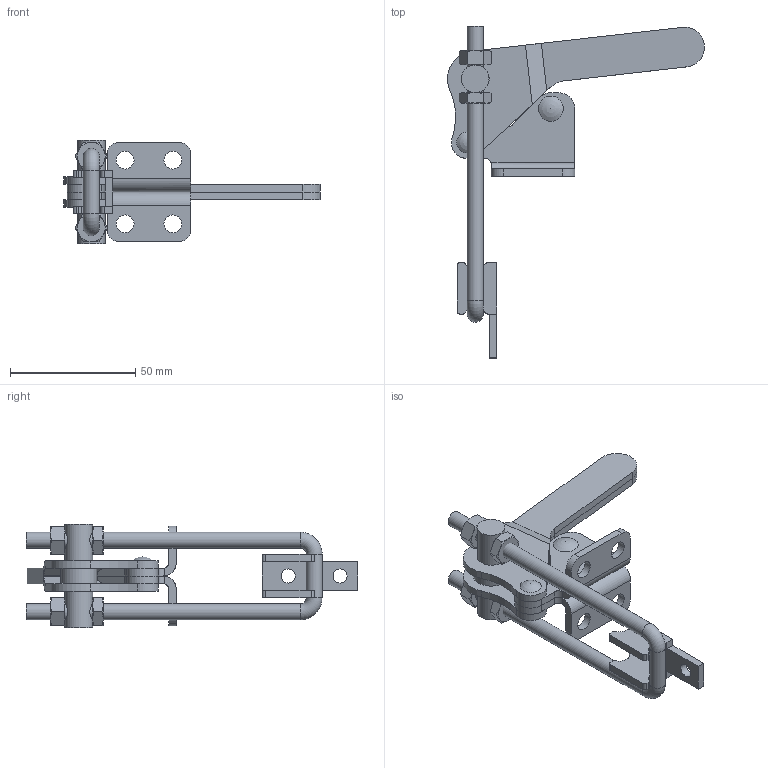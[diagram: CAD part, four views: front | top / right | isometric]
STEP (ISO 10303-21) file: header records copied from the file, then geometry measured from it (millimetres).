
FILE_DESCRIPTION((' '),'2;1');
FILE_NAME('C:\Users\Nick\Desktop\PCU-Sereis\PCU-1010\3D\PCU-1010.stp','2015-07-24T11:44:22',(' '),(' '),' ','ACIS',' ');
FILE_SCHEMA(('CONFIG_CONTROL_DESIGN'));
Length unit declared in the file: inch
Products named in the file (27): C:\Users\Nick\Desktop\PCU-Sereis\PCU-1010\3D\PCU-1010.stp; Body1; Body2; Body3; Body4; Body5; Body6; Body7; Body8; Body9; Body10; Body11; Body12; Body13; Body14; Body15; Body16; Body17; Body18; Body19; Body20; Body21; Body22; Body23; Body24; Body25; Body26
Assembly tree (26 placements, depth 2):
  C:\Users\Nick\Desktop\PCU-Sereis\PCU-1010\3D\PCU-1010.stp
    Body1
    Body2
    Body3
    Body4
    Body5
    Body6
    Body7
    Body8
    Body9
    Body10
    Body11
    Body12
    Body13
    Body14
    Body15
    Body16
    Body17
    Body18
    Body19
    Body20
    Body21
    Body22
    Body23
    Body24
    Body25
    Body26
Bounding box: 102.47 x 132.33 x 41.27 mm (x, y, z)
Volume: 39118.3 mm3; surface area: 31166.9 mm2
Topology: 26 solids, 26 shells, 261 faces, 579 edges, 368 vertices
Faces by surface type: plane 132, cylinder 73, cone 52, torus 2, sphere 2
Full cylindrical faces by diameter (mm): 4.657 x4, 4.724 x2, 4.826 x4, 5.537 x2, 5.588 x2, 6.35 x5, 6.756 x2, 7.137 x4, 11.049 x1, 11.1 x2, 14.288 x1
Entity records: 10996 total; most frequent: CARTESIAN_POINT 1556, DIRECTION 1262, ORIENTED_EDGE 1076, EDGE_CURVE 538, AXIS2_PLACEMENT_3D 514, VERTEX_POINT 364, EDGE_LOOP 336, PERSON 268
